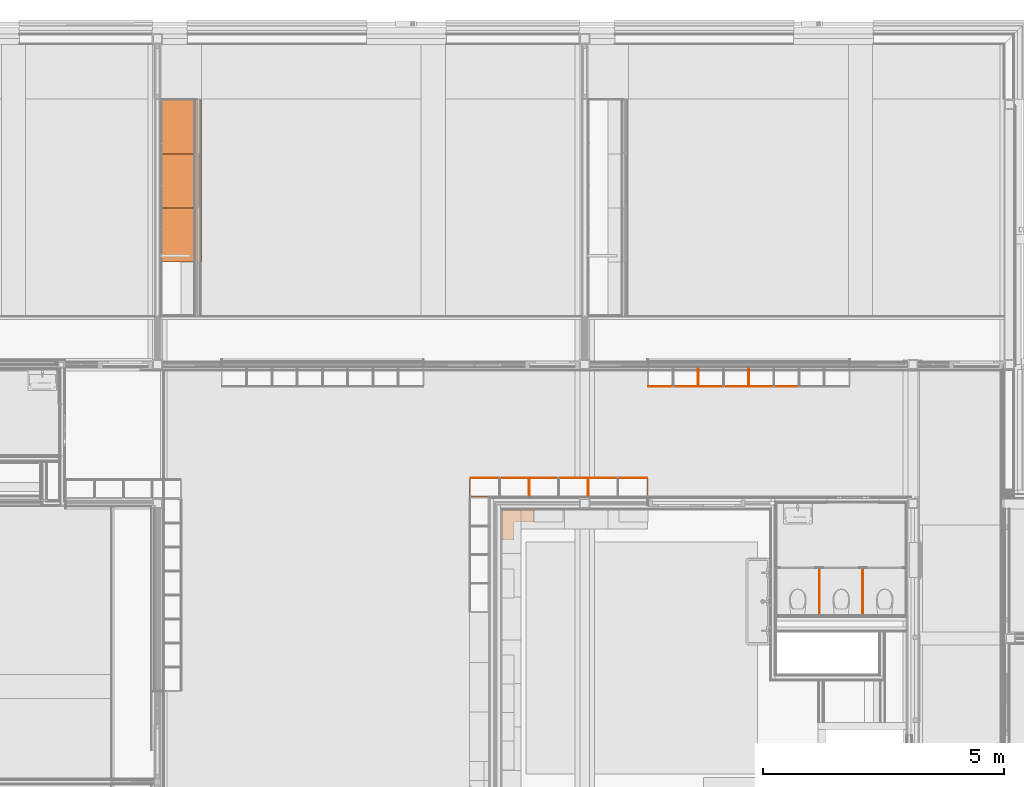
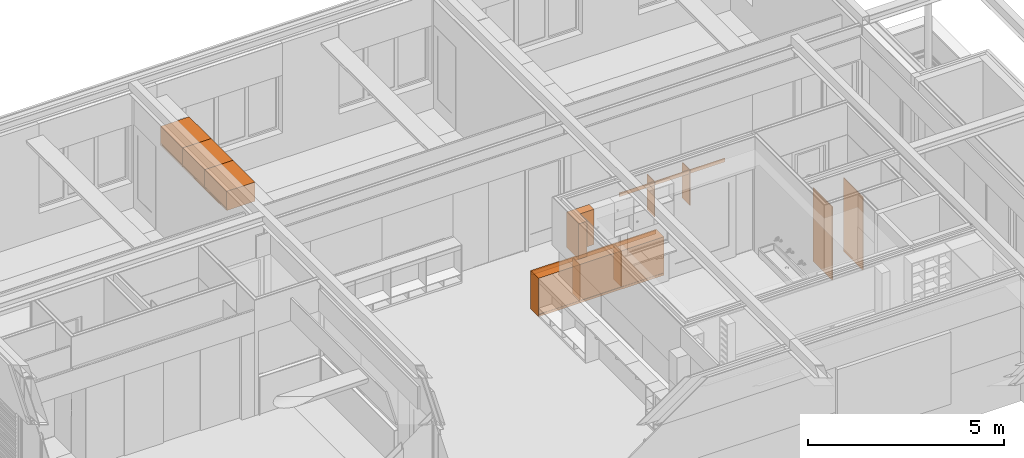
# One storey, part 134 of 137: 17 proxies.
"""IFC2X3 building model written with IfcOpenShell, lengths in millimetres."""

from ifc_helpers import new_model, entity, si_unit, converted_unit, derived_unit, money_unit, direction, frame, origin_with_axes, place, context, subcontext, project, spatial, faceted_brep, material, type_object, element, save


model = new_model("IFC2X3")

# Units and contexts
model_context = context("Model", 3, precision=0.01, world=origin_with_axes(), true_north=direction((0.0, 1.0)))
body_context = subcontext(model_context, "Body", "Model", "MODEL_VIEW")
ifc_project = project(units=[si_unit("LENGTHUNIT", "METRE", prefix="MILLI"), si_unit("AREAUNIT", "SQUARE_METRE"), si_unit("VOLUMEUNIT", "CUBIC_METRE"), converted_unit("PLANEANGLEUNIT", "DEGREE", entity("IfcPlaneAngleMeasure", 0.0174532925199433), si_unit("PLANEANGLEUNIT", "RADIAN"), dimensions=[0, 0, 0, 0, 0, 0, 0]), money_unit("EUR"), converted_unit("TIMEUNIT", "Year", entity("IfcTimeMeasure", 31556926.0), si_unit("TIMEUNIT", "SECOND"), dimensions=[0, 0, 1, 0, 0, 0, 0]), si_unit("MASSUNIT", "GRAM", prefix="KILO"), si_unit("THERMODYNAMICTEMPERATUREUNIT", "DEGREE_CELSIUS"), si_unit("LUMINOUSINTENSITYUNIT", "LUMEN"), si_unit("ENERGYUNIT", "JOULE", prefix="MEGA"), derived_unit("THERMALCONDUCTANCEUNIT", [(si_unit("POWERUNIT", "WATT"), 1), (si_unit("LENGTHUNIT", "METRE"), -1), (si_unit("THERMODYNAMICTEMPERATUREUNIT", "KELVIN"), -1)]), derived_unit("SPECIFICHEATCAPACITYUNIT", [(si_unit("ENERGYUNIT", "JOULE"), 1), (si_unit("MASSUNIT", "GRAM", prefix="KILO"), -1), (si_unit("THERMODYNAMICTEMPERATUREUNIT", "KELVIN"), -1)]), derived_unit("MASSDENSITYUNIT", [(si_unit("MASSUNIT", "GRAM", prefix="KILO"), 1), (si_unit("VOLUMEUNIT", "CUBIC_METRE"), -1)])], contexts=[model_context])

# Site, building, storey
site_placement = place(None, origin_with_axes())
site = spatial("IfcSite", under=ifc_project, at=site_placement, Name="Site", CompositionType="ELEMENT")
building_placement = place(site_placement, origin_with_axes())
building = spatial("IfcBuilding", under=site, at=building_placement, Name="Naam gebouw", CompositionType="ELEMENT")
storey_placement = place(building_placement, frame((0.0, 0.0, 3960.0), z_axis=(0.0, 0.0, 1.0), x_axis=(1.0, 0.0, 0.0)))
storey = spatial("IfcBuildingStorey", under=building, at=storey_placement, Name="1e verdieping", CompositionType="ELEMENT", Elevation=3960.0)

# Proxies
ifc_material_1 = material(Name="ALG - ALGEMEEN")
building_element_proxy_type_1 = type_object("IfcBuildingElementProxyType", Name="ALG - ALGEMEEN 20", PredefinedType="NOTDEFINED")
proxy_1_placement = place(storey_placement, frame((23464.99903999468, 18114.99981121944, 99.99999999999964), z_axis=(0.0, 0.0, 1.0), x_axis=(0.0, -1.0, 0.0)))
element("IfcBuildingElementProxy", 1, at=proxy_1_placement, inside=storey, type_object=building_element_proxy_type_1, material=ifc_material_1, Name="_Wand-x", context=body_context, shape_type="Brep", body=[
    faceted_brep([(1000.002029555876, -9.999999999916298, 2290.0), (1000.002029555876, 10.00000000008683, 2290.0), (10.00000000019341, 10.00000000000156, 2290.0), (10.0000000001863, -10.00000000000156, 2290.0), (1000.002029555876, -9.999999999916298, 0.0), (1000.002029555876, 10.00000000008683, 0.0), (10.00000000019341, 10.00000000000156, 0.0), (10.0000000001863, -10.00000000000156, 0.0)], [[[0, 1, 2, 3]], [[1, 0, 4, 5]], [[1, 5, 6, 2]], [[7, 3, 2, 6]], [[4, 0, 3, 7]], [[5, 4, 7, 6]]]),
])
proxy_2_placement = place(storey_placement, frame((22564.99903999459, 18114.99981121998, 99.99999999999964), z_axis=(0.0, 0.0, 1.0), x_axis=(0.0, -1.0, 0.0)))
element("IfcBuildingElementProxy", 2, at=proxy_2_placement, inside=storey, type_object=building_element_proxy_type_1, material=ifc_material_1, Name="_Wand-x", context=body_context, shape_type="Brep", body=[
    faceted_brep([(1000.00202955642, -9.999999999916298, 2290.0), (1000.002029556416, 10.00000000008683, 2290.0), (10.0000000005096, 10.00000000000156, 2290.0), (10.00000000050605, -10.00000000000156, 2290.0), (1000.00202955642, -9.999999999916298, 0.0), (1000.002029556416, 10.00000000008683, 0.0), (10.0000000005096, 10.00000000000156, 0.0), (10.00000000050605, -10.00000000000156, 0.0)], [[[0, 1, 2, 3]], [[1, 0, 4, 5]], [[1, 5, 6, 2]], [[7, 3, 2, 6]], [[4, 0, 3, 7]], [[5, 4, 7, 6]]]),
])
ifc_material_2 = material(Name="Hout AFW")
building_element_proxy_type_2 = type_object("IfcBuildingElementProxyType", Name="Hout AFW 18", PredefinedType="NOTDEFINED")
proxy_3_placement = place(storey_placement, frame((21109.9867600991, 21862.47621406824, 1062.0), z_axis=(0.0, 0.0, 1.0), x_axis=(1.0, 0.0, 0.0)))
element("IfcBuildingElementProxy", 3, at=proxy_3_placement, inside=storey, type_object=building_element_proxy_type_2, material=ifc_material_2, Name="i HOUT_Wand-x", context=body_context, shape_type="Brep", body=[
    faceted_brep([(0.0, 18.00000000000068, 0.0), (1024.991813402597, 18.00000000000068, 0.0), (1024.991813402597, 0.0, 0.0), (0.0, 0.0, 0.0), (0.0, 18.00000000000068, 117.9999999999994), (1024.991813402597, 18.00000000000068, 117.9999999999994), (1024.991813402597, 0.0, 117.9999999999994), (0.0, 0.0, 117.9999999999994)], [[[0, 1, 2, 3]], [[4, 5, 1, 0]], [[2, 1, 5, 6]], [[3, 2, 6, 7]], [[4, 0, 3, 7]], [[7, 6, 5, 4]]]),
])
proxy_4_placement = place(storey_placement, frame((18994.99945671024, 19984.99981121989, 1062.0), z_axis=(0.0, 0.0, 1.0), x_axis=(-1.0, 0.0, 0.0)))
element("IfcBuildingElementProxy", 4, at=proxy_4_placement, inside=storey, type_object=building_element_proxy_type_2, material=ifc_material_2, Name="i HOUT_Wand-x", context=body_context, shape_type="Brep", body=[
    faceted_brep([(0.0, 18.00000000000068, 0.0), (1209.999999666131, 18.00000000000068, 0.0), (1209.999999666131, 0.0, 0.0), (0.0, 0.0, 0.0), (0.0, 18.00000000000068, 117.9999999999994), (1209.999999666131, 18.00000000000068, 117.9999999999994), (1209.999999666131, 0.0, 117.9999999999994), (0.0, 0.0, 117.9999999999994)], [[[0, 1, 2, 3]], [[4, 5, 1, 0]], [[2, 1, 5, 6]], [[3, 2, 6, 7]], [[4, 0, 3, 7]], [[7, 6, 5, 4]]]),
])
proxy_5_placement = place(storey_placement, frame((20064.9949466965, 21862.47621406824, 1062.0), z_axis=(0.0, 0.0, 1.0), x_axis=(1.0, 0.0, 0.0)))
element("IfcBuildingElementProxy", 5, at=proxy_5_placement, inside=storey, type_object=building_element_proxy_type_2, material=ifc_material_2, Name="i HOUT_Wand-x", context=body_context, shape_type="Brep", body=[
    faceted_brep([(0.0, 18.00000000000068, 0.0), (1024.991813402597, 18.00000000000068, 0.0), (1024.991813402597, 0.0, 0.0), (0.0, 0.0, 0.0), (0.0, 18.00000000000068, 117.9999999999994), (1024.991813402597, 18.00000000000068, 117.9999999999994), (1024.991813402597, 0.0, 117.9999999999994), (0.0, 0.0, 117.9999999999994)], [[[0, 1, 2, 3]], [[4, 5, 1, 0]], [[2, 1, 5, 6]], [[3, 2, 6, 7]], [[4, 0, 3, 7]], [[7, 6, 5, 4]]]),
])
proxy_6_placement = place(storey_placement, frame((16544.99945919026, 19984.99981121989, 1062.0), z_axis=(0.0, 0.0, 1.0), x_axis=(-1.0, 0.0, 0.0)))
element("IfcBuildingElementProxy", 6, at=proxy_6_placement, inside=storey, type_object=building_element_proxy_type_2, material=ifc_material_2, Name="i HOUT_Wand-x", context=body_context, shape_type="Brep", body=[
    faceted_brep([(0.0, 18.00000000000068, 0.0), (1210.000002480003, 18.00000000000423, 0.0), (1210.000002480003, 0.0, 0.0), (0.0, 0.0, 0.0), (0.0, 18.00000000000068, 117.9999999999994), (1210.000002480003, 18.00000000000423, 117.9999999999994), (1210.000002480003, 0.0, 117.9999999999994), (0.0, 0.0, 117.9999999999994)], [[[0, 1, 2, 3]], [[4, 5, 1, 0]], [[2, 1, 5, 6]], [[3, 2, 6, 7]], [[4, 0, 3, 7]], [[7, 6, 5, 4]]]),
])
proxy_7_placement = place(storey_placement, frame((17764.99945704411, 19984.99981121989, 1062.0), z_axis=(0.0, 0.0, 1.0), x_axis=(-1.0, 0.0, 0.0)))
element("IfcBuildingElementProxy", 7, at=proxy_7_placement, inside=storey, type_object=building_element_proxy_type_2, material=ifc_material_2, Name="i HOUT_Wand-x", context=body_context, shape_type="Brep", body=[
    faceted_brep([(0.0, 18.00000000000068, 0.0), (1199.999997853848, 18.00000000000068, 0.0), (1199.999997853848, 0.0, 0.0), (0.0, 0.0, 0.0), (0.0, 18.00000000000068, 117.9999999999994), (1199.999997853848, 18.00000000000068, 117.9999999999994), (1199.999997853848, 0.0, 117.9999999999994), (0.0, 0.0, 117.9999999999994)], [[[0, 1, 2, 3]], [[4, 5, 1, 0]], [[2, 1, 5, 6]], [[3, 2, 6, 7]], [[4, 0, 3, 7]], [[7, 6, 5, 4]]]),
])
proxy_8_placement = place(storey_placement, frame((19019.9990399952, 21862.47621406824, 1062.0), z_axis=(0.0, 0.0, 1.0), x_axis=(1.0, 0.0, 0.0)))
element("IfcBuildingElementProxy", 8, at=proxy_8_placement, inside=storey, type_object=building_element_proxy_type_2, material=ifc_material_2, Name="i HOUT_Wand-x", context=body_context, shape_type="Brep", body=[
    faceted_brep([(0.0, 18.00000000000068, 0.0), (1024.995906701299, 18.00000000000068, 0.0), (1024.995906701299, 0.0, 0.0), (0.0, 0.0, 0.0), (0.0, 18.00000000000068, 117.9999999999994), (1024.995906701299, 18.00000000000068, 117.9999999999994), (1024.995906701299, 0.0, 117.9999999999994), (0.0, 0.0, 117.9999999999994)], [[[0, 1, 2, 3]], [[4, 5, 1, 0]], [[2, 1, 5, 6]], [[3, 2, 6, 7]], [[4, 0, 3, 7]], [[7, 6, 5, 4]]]),
])
building_element_proxy_type_3 = type_object("IfcBuildingElementProxyType", Name="Onderkast recht 26", PredefinedType="NOTDEFINED")
proxy_9_placement = place(storey_placement, frame((19014.99945671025, 19584.9998112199, 0.0), z_axis=(0.0, 0.0, 1.0), x_axis=(-1.0, 0.0, 0.0)))
element("IfcBuildingElementProxy", 9, at=proxy_9_placement, inside=storey, type_object=building_element_proxy_type_3, Name="_Leeg", context=body_context, shape_type="Brep", body=[
    faceted_brep([(20.0, -399.999999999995, 50.0), (3679.999999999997, -399.999999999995, 50.0), (3679.999999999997, -399.999999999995, 70.0), (20.0, -399.999999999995, 70.0), (20.0, 0.0, 50.0), (3679.999999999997, 0.0, 50.0), (3679.999999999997, 0.0, 70.0), (20.0, 0.0, 70.0)], [[[0, 1, 2, 3]], [[0, 4, 5, 1]], [[1, 5, 6, 2]], [[3, 2, 6, 7]], [[4, 0, 3, 7]], [[5, 4, 7, 6]]]),
    faceted_brep([(20.0, -399.999999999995, 1180.0), (3679.999999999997, -399.999999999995, 1180.0), (3679.999999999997, -399.999999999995, 1200.0), (20.0, -399.999999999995, 1200.0), (20.0, 0.0, 1180.0), (3679.999999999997, 0.0, 1180.0), (3679.999999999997, 0.0, 1200.0), (20.0, 0.0, 1200.0)], [[[0, 1, 2, 3]], [[0, 4, 5, 1]], [[1, 5, 6, 2]], [[3, 2, 6, 7]], [[4, 0, 3, 7]], [[5, 4, 7, 6]]]),
    faceted_brep([(0.0, 0.0, 50.0), (0.0, -399.999999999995, 50.0), (0.0, -399.999999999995, 1200.0), (0.0, 0.0, 1200.0), (20.0, 0.0, 50.0), (20.0, -399.999999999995, 50.0), (20.0, -399.999999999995, 1200.0), (20.0, 0.0, 1200.0)], [[[0, 1, 2, 3]], [[0, 4, 5, 1]], [[1, 5, 6, 2]], [[3, 2, 6, 7]], [[4, 0, 3, 7]], [[5, 4, 7, 6]]]),
    faceted_brep([(3699.999999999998, -399.999999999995, 50.0), (3699.999999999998, 0.0, 50.0), (3699.999999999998, 0.0, 1200.0), (3699.999999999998, -399.999999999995, 1200.0), (3679.999999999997, -399.999999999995, 50.0), (3679.999999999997, 0.0, 50.0), (3679.999999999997, 0.0, 1200.0), (3679.999999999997, -399.999999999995, 1200.0)], [[[0, 1, 2, 3]], [[0, 4, 5, 1]], [[1, 5, 6, 2]], [[3, 2, 6, 7]], [[4, 0, 3, 7]], [[5, 4, 7, 6]]]),
    faceted_brep([(3679.999999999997, -10.0, 70.0), (20.00000000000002, -10.0, 70.0), (20.00000000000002, -10.0, 1180.0), (3679.999999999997, -10.0, 1180.0), (3679.999999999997, -20.0, 70.0), (20.00000000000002, -20.0, 70.0), (20.00000000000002, -20.0, 1180.0), (3679.999999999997, -20.0, 1180.0)], [[[0, 1, 2, 3]], [[0, 4, 5, 1]], [[1, 5, 6, 2]], [[3, 2, 6, 7]], [[4, 0, 3, 7]], [[5, 4, 7, 6]]]),
    faceted_brep([(0.0, -399.999999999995, 0.0), (3699.999999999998, -399.999999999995, 0.0), (3699.999999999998, -399.999999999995, 50.0), (0.0, -399.999999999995, 50.0), (0.0, 0.0, 0.0), (3699.999999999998, 0.0, 0.0), (3699.999999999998, 0.0, 50.0), (0.0, 0.0, 50.0)], [[[0, 1, 2, 3]], [[0, 4, 5, 1]], [[1, 5, 6, 2]], [[3, 2, 6, 7]], [[4, 0, 3, 7]], [[5, 4, 7, 6]]]),
])
proxy_10_placement = place(storey_placement, frame((8912.500000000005, 26687.99970566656, 2600.0), z_axis=(0.0, 0.0, 1.0), x_axis=(0.0, 1.0, 0.0)))
element("IfcBuildingElementProxy", 10, at=proxy_10_placement, inside=storey, type_object=building_element_proxy_type_3, Name="_Leeg", context=body_context, shape_type="Brep", body=[
    faceted_brep([(-1102.000141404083, -1.999999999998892, 17.99999999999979), (-18.00000000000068, -1.999999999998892, 17.99999999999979), (-18.00000000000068, 0.0, 17.99999999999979), (-1102.000141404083, 0.0, 17.99999999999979), (-18.00000000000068, -1.999999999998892, 0.0), (-1102.000141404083, -1.999999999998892, 0.0), (-18.00000000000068, 0.0, 0.0), (-1102.000141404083, 0.0, 0.0)], [[[0, 1, 2, 3]], [[4, 1, 0, 5]], [[1, 4, 6, 2]], [[6, 7, 3, 2]], [[5, 0, 3, 7]], [[4, 5, 7, 6]]]),
    faceted_brep([(-1102.000141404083, -18.00000000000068, 69.99999999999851), (-18.00000000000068, -18.00000000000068, 69.99999999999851), (-18.00000000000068, -18.00000000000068, 581.9999999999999), (-1102.000141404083, -18.00000000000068, 581.9999999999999), (-18.00000000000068, -9.000000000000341, 69.99999999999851), (-1102.000141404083, -9.000000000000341, 69.99999999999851), (-18.00000000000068, -9.000000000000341, 581.9999999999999), (-1102.000141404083, -9.000000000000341, 581.9999999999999)], [[[0, 1, 2, 3]], [[4, 1, 0, 5]], [[1, 4, 6, 2]], [[6, 7, 3, 2]], [[5, 0, 3, 7]], [[4, 5, 7, 6]]]),
    faceted_brep([(-1102.000141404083, -827.0, 581.9999999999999), (-18.00000000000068, -827.0, 581.9999999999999), (-18.00000000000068, -827.0, 599.9999999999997), (-1102.000141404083, -827.0, 599.9999999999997), (-18.00000000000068, 0.0, 581.9999999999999), (-1102.000141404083, 0.0, 581.9999999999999), (-18.00000000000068, 0.0, 599.9999999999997), (-1102.000141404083, 0.0, 599.9999999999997)], [[[0, 1, 2, 3]], [[4, 1, 0, 5]], [[1, 4, 6, 2]], [[3, 2, 6, 7]], [[5, 0, 3, 7]], [[4, 5, 7, 6]]]),
    faceted_brep([(0.0, -1.999999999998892, 69.99999999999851), (0.0, -1.999999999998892, 0.0), (0.0, 0.0, 0.0), (0.0, 0.0, 599.9999999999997), (0.0, -827.0, 599.9999999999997), (0.0, -827.0, 0.0), (0.0, -21.99999999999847, 0.0), (0.0, -21.99999999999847, 69.99999999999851), (-18.00000000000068, -1.999999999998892, 69.99999999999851), (-18.00000000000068, -1.999999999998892, 0.0), (-18.00000000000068, 0.0, 0.0), (-18.00000000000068, 0.0, 599.9999999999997), (-18.00000000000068, -827.0, 599.9999999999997), (-18.00000000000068, -827.0, 0.0), (-18.00000000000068, -21.99999999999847, 0.0), (-18.00000000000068, -21.99999999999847, 69.99999999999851)], [[[0, 1, 2, 3, 4, 5, 6, 7]], [[1, 0, 8, 9]], [[1, 9, 10, 2]], [[2, 10, 11, 3]], [[4, 3, 11, 12]], [[13, 5, 4, 12]], [[14, 6, 5, 13]], [[7, 6, 14, 15]], [[0, 7, 15, 8]], [[15, 14, 13, 12, 11, 10, 9, 8]]]),
    faceted_brep([(-1102.000141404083, -1.999999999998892, 69.99999999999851), (-1102.000141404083, -1.999999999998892, 0.0), (-1102.000141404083, 0.0, 0.0), (-1102.000141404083, 0.0, 599.9999999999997), (-1102.000141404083, -827.0, 599.9999999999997), (-1102.000141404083, -827.0, 0.0), (-1102.000141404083, -21.99999999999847, 0.0), (-1102.000141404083, -21.99999999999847, 69.99999999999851), (-1120.000141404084, -1.999999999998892, 69.99999999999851), (-1120.000141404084, -1.999999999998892, 0.0), (-1120.000141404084, 0.0, 0.0), (-1120.000141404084, 0.0, 599.9999999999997), (-1120.000141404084, -827.0, 599.9999999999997), (-1120.000141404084, -827.0, 0.0), (-1120.000141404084, -21.99999999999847, 0.0), (-1120.000141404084, -21.99999999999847, 69.99999999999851)], [[[0, 1, 2, 3, 4, 5, 6, 7]], [[1, 0, 8, 9]], [[1, 9, 10, 2]], [[2, 10, 11, 3]], [[11, 12, 4, 3]], [[13, 5, 4, 12]], [[14, 6, 5, 13]], [[7, 6, 14, 15]], [[0, 7, 15, 8]], [[15, 14, 13, 12, 11, 10, 9, 8]]]),
    faceted_brep([(-18.00000000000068, -21.99999999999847, 0.0), (-18.00000000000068, -21.99999999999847, 17.99999999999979), (-18.00000000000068, -827.0, 17.99999999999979), (-18.00000000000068, -827.0, 0.0), (-1102.000141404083, -21.99999999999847, 17.99999999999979), (-1102.000141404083, -21.99999999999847, 0.0), (-1102.000141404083, -827.0, 17.99999999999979), (-1102.000141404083, -827.0, 0.0)], [[[0, 1, 2, 3]], [[4, 1, 0, 5]], [[1, 4, 6, 2]], [[7, 3, 2, 6]], [[5, 0, 3, 7]], [[4, 5, 7, 6]]]),
    faceted_brep([(-1.000000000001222, -827.0, 1.000000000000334), (-1.000000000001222, -845.0000000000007, 1.000000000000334), (-1119.000141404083, -845.0000000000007, 1.000000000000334), (-1119.000141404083, -827.0, 1.000000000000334), (-1.000000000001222, -827.0, 599.0000000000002), (-1.000000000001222, -845.0000000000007, 599.0000000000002), (-1119.000141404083, -845.0000000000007, 599.0000000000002), (-1119.000141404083, -827.0, 599.0000000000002)], [[[0, 1, 2, 3]], [[4, 5, 1, 0]], [[1, 5, 6, 2]], [[3, 2, 6, 7]], [[0, 3, 7, 4]], [[7, 6, 5, 4]]]),
])
proxy_11_placement = place(storey_placement, frame((8912.500000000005, 25567.99956426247, 2600.0), z_axis=(0.0, 0.0, 1.0), x_axis=(0.0, 1.0, 0.0)))
element("IfcBuildingElementProxy", 11, at=proxy_11_placement, inside=storey, type_object=building_element_proxy_type_3, Name="_Leeg", context=body_context, shape_type="Brep", body=[
    faceted_brep([(-1102.000141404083, -1.999999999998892, 17.99999999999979), (-18.00000000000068, -1.999999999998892, 17.99999999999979), (-18.00000000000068, 0.0, 17.99999999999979), (-1102.000141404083, 0.0, 17.99999999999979), (-18.00000000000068, -1.999999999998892, 0.0), (-1102.000141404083, -1.999999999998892, 0.0), (-18.00000000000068, 0.0, 0.0), (-1102.000141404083, 0.0, 0.0)], [[[0, 1, 2, 3]], [[4, 1, 0, 5]], [[1, 4, 6, 2]], [[6, 7, 3, 2]], [[5, 0, 3, 7]], [[4, 5, 7, 6]]]),
    faceted_brep([(-1102.000141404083, -18.00000000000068, 69.99999999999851), (-18.00000000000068, -18.00000000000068, 69.99999999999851), (-18.00000000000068, -18.00000000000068, 581.9999999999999), (-1102.000141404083, -18.00000000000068, 581.9999999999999), (-18.00000000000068, -9.000000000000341, 69.99999999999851), (-1102.000141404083, -9.000000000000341, 69.99999999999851), (-18.00000000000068, -9.000000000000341, 581.9999999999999), (-1102.000141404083, -9.000000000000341, 581.9999999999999)], [[[0, 1, 2, 3]], [[4, 1, 0, 5]], [[1, 4, 6, 2]], [[6, 7, 3, 2]], [[5, 0, 3, 7]], [[4, 5, 7, 6]]]),
    faceted_brep([(-1102.000141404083, -827.0, 581.9999999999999), (-18.00000000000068, -827.0, 581.9999999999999), (-18.00000000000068, -827.0, 599.9999999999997), (-1102.000141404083, -827.0, 599.9999999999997), (-18.00000000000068, 0.0, 581.9999999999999), (-1102.000141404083, 0.0, 581.9999999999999), (-18.00000000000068, 0.0, 599.9999999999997), (-1102.000141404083, 0.0, 599.9999999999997)], [[[0, 1, 2, 3]], [[4, 1, 0, 5]], [[1, 4, 6, 2]], [[3, 2, 6, 7]], [[5, 0, 3, 7]], [[4, 5, 7, 6]]]),
    faceted_brep([(0.0, -1.999999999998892, 69.99999999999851), (0.0, -1.999999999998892, 0.0), (0.0, 0.0, 0.0), (0.0, 0.0, 599.9999999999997), (0.0, -827.0, 599.9999999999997), (0.0, -827.0, 0.0), (0.0, -21.99999999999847, 0.0), (0.0, -21.99999999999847, 69.99999999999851), (-18.00000000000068, -1.999999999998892, 69.99999999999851), (-18.00000000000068, -1.999999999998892, 0.0), (-18.00000000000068, 0.0, 0.0), (-18.00000000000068, 0.0, 599.9999999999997), (-18.00000000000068, -827.0, 599.9999999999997), (-18.00000000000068, -827.0, 0.0), (-18.00000000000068, -21.99999999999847, 0.0), (-18.00000000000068, -21.99999999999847, 69.99999999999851)], [[[0, 1, 2, 3, 4, 5, 6, 7]], [[1, 0, 8, 9]], [[1, 9, 10, 2]], [[2, 10, 11, 3]], [[4, 3, 11, 12]], [[13, 5, 4, 12]], [[14, 6, 5, 13]], [[7, 6, 14, 15]], [[0, 7, 15, 8]], [[15, 14, 13, 12, 11, 10, 9, 8]]]),
    faceted_brep([(-1102.000141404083, -1.999999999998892, 69.99999999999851), (-1102.000141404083, -1.999999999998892, 0.0), (-1102.000141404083, 0.0, 0.0), (-1102.000141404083, 0.0, 599.9999999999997), (-1102.000141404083, -827.0, 599.9999999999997), (-1102.000141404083, -827.0, 0.0), (-1102.000141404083, -21.99999999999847, 0.0), (-1102.000141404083, -21.99999999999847, 69.99999999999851), (-1120.000141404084, -1.999999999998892, 69.99999999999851), (-1120.000141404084, -1.999999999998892, 0.0), (-1120.000141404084, 0.0, 0.0), (-1120.000141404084, 0.0, 599.9999999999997), (-1120.000141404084, -827.0, 599.9999999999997), (-1120.000141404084, -827.0, 0.0), (-1120.000141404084, -21.99999999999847, 0.0), (-1120.000141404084, -21.99999999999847, 69.99999999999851)], [[[0, 1, 2, 3, 4, 5, 6, 7]], [[1, 0, 8, 9]], [[1, 9, 10, 2]], [[2, 10, 11, 3]], [[11, 12, 4, 3]], [[13, 5, 4, 12]], [[14, 6, 5, 13]], [[7, 6, 14, 15]], [[0, 7, 15, 8]], [[15, 14, 13, 12, 11, 10, 9, 8]]]),
    faceted_brep([(-18.00000000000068, -21.99999999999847, 0.0), (-18.00000000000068, -21.99999999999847, 17.99999999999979), (-18.00000000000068, -827.0, 17.99999999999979), (-18.00000000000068, -827.0, 0.0), (-1102.000141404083, -21.99999999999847, 17.99999999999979), (-1102.000141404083, -21.99999999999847, 0.0), (-1102.000141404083, -827.0, 17.99999999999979), (-1102.000141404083, -827.0, 0.0)], [[[0, 1, 2, 3]], [[4, 1, 0, 5]], [[1, 4, 6, 2]], [[7, 3, 2, 6]], [[5, 0, 3, 7]], [[4, 5, 7, 6]]]),
    faceted_brep([(-1.000000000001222, -827.0, 1.000000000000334), (-1.000000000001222, -845.0000000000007, 1.000000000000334), (-1119.000141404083, -845.0000000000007, 1.000000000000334), (-1119.000141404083, -827.0, 1.000000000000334), (-1.000000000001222, -827.0, 599.0000000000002), (-1.000000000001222, -845.0000000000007, 599.0000000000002), (-1119.000141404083, -845.0000000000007, 599.0000000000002), (-1119.000141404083, -827.0, 599.0000000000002)], [[[0, 1, 2, 3]], [[4, 5, 1, 0]], [[1, 5, 6, 2]], [[3, 2, 6, 7]], [[0, 3, 7, 4]], [[7, 6, 5, 4]]]),
])
proxy_12_placement = place(storey_placement, frame((8912.500000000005, 27807.99984707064, 2600.0), z_axis=(0.0, 0.0, 1.0), x_axis=(0.0, 1.0, 0.0)))
element("IfcBuildingElementProxy", 12, at=proxy_12_placement, inside=storey, type_object=building_element_proxy_type_3, Name="_Leeg", context=body_context, shape_type="Brep", body=[
    faceted_brep([(-1102.000141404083, -1.999999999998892, 17.99999999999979), (-18.00000000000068, -1.999999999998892, 17.99999999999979), (-18.00000000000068, 0.0, 17.99999999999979), (-1102.000141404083, 0.0, 17.99999999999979), (-18.00000000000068, -1.999999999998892, 0.0), (-1102.000141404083, -1.999999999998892, 0.0), (-18.00000000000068, 0.0, 0.0), (-1102.000141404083, 0.0, 0.0)], [[[0, 1, 2, 3]], [[4, 1, 0, 5]], [[1, 4, 6, 2]], [[6, 7, 3, 2]], [[5, 0, 3, 7]], [[4, 5, 7, 6]]]),
    faceted_brep([(-1102.000141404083, -18.00000000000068, 69.99999999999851), (-18.00000000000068, -18.00000000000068, 69.99999999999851), (-18.00000000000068, -18.00000000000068, 581.9999999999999), (-1102.000141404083, -18.00000000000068, 581.9999999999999), (-18.00000000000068, -9.000000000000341, 69.99999999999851), (-1102.000141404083, -9.000000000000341, 69.99999999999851), (-18.00000000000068, -9.000000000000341, 581.9999999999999), (-1102.000141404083, -9.000000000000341, 581.9999999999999)], [[[0, 1, 2, 3]], [[4, 1, 0, 5]], [[1, 4, 6, 2]], [[6, 7, 3, 2]], [[5, 0, 3, 7]], [[4, 5, 7, 6]]]),
    faceted_brep([(-1102.000141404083, -827.0, 581.9999999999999), (-18.00000000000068, -827.0, 581.9999999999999), (-18.00000000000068, -827.0, 599.9999999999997), (-1102.000141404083, -827.0, 599.9999999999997), (-18.00000000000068, 0.0, 581.9999999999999), (-1102.000141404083, 0.0, 581.9999999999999), (-18.00000000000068, 0.0, 599.9999999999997), (-1102.000141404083, 0.0, 599.9999999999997)], [[[0, 1, 2, 3]], [[4, 1, 0, 5]], [[1, 4, 6, 2]], [[3, 2, 6, 7]], [[5, 0, 3, 7]], [[4, 5, 7, 6]]]),
    faceted_brep([(0.0, -1.999999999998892, 69.99999999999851), (0.0, -1.999999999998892, 0.0), (0.0, 0.0, 0.0), (0.0, 0.0, 599.9999999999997), (0.0, -827.0, 599.9999999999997), (0.0, -827.0, 0.0), (0.0, -21.99999999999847, 0.0), (0.0, -21.99999999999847, 69.99999999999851), (-18.00000000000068, -1.999999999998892, 69.99999999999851), (-18.00000000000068, -1.999999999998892, 0.0), (-18.00000000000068, 0.0, 0.0), (-18.00000000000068, 0.0, 599.9999999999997), (-18.00000000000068, -827.0, 599.9999999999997), (-18.00000000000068, -827.0, 0.0), (-18.00000000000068, -21.99999999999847, 0.0), (-18.00000000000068, -21.99999999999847, 69.99999999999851)], [[[0, 1, 2, 3, 4, 5, 6, 7]], [[1, 0, 8, 9]], [[1, 9, 10, 2]], [[2, 10, 11, 3]], [[4, 3, 11, 12]], [[13, 5, 4, 12]], [[14, 6, 5, 13]], [[7, 6, 14, 15]], [[0, 7, 15, 8]], [[15, 14, 13, 12, 11, 10, 9, 8]]]),
    faceted_brep([(-1102.000141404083, -1.999999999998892, 69.99999999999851), (-1102.000141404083, -1.999999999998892, 0.0), (-1102.000141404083, 0.0, 0.0), (-1102.000141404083, 0.0, 599.9999999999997), (-1102.000141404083, -827.0, 599.9999999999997), (-1102.000141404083, -827.0, 0.0), (-1102.000141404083, -21.99999999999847, 0.0), (-1102.000141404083, -21.99999999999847, 69.99999999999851), (-1120.000141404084, -1.999999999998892, 69.99999999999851), (-1120.000141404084, -1.999999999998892, 0.0), (-1120.000141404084, 0.0, 0.0), (-1120.000141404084, 0.0, 599.9999999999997), (-1120.000141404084, -827.0, 599.9999999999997), (-1120.000141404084, -827.0, 0.0), (-1120.000141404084, -21.99999999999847, 0.0), (-1120.000141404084, -21.99999999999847, 69.99999999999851)], [[[0, 1, 2, 3, 4, 5, 6, 7]], [[1, 0, 8, 9]], [[1, 9, 10, 2]], [[2, 10, 11, 3]], [[11, 12, 4, 3]], [[13, 5, 4, 12]], [[14, 6, 5, 13]], [[7, 6, 14, 15]], [[0, 7, 15, 8]], [[15, 14, 13, 12, 11, 10, 9, 8]]]),
    faceted_brep([(-18.00000000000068, -21.99999999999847, 0.0), (-18.00000000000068, -21.99999999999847, 17.99999999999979), (-18.00000000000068, -827.0, 17.99999999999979), (-18.00000000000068, -827.0, 0.0), (-1102.000141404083, -21.99999999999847, 17.99999999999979), (-1102.000141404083, -21.99999999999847, 0.0), (-1102.000141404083, -827.0, 17.99999999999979), (-1102.000141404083, -827.0, 0.0)], [[[0, 1, 2, 3]], [[4, 1, 0, 5]], [[1, 4, 6, 2]], [[7, 3, 2, 6]], [[5, 0, 3, 7]], [[4, 5, 7, 6]]]),
    faceted_brep([(-1.000000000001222, -827.0, 1.000000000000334), (-1.000000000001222, -845.0000000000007, 1.000000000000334), (-1119.000141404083, -845.0000000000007, 1.000000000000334), (-1119.000141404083, -827.0, 1.000000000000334), (-1.000000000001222, -827.0, 599.0000000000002), (-1.000000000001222, -845.0000000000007, 599.0000000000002), (-1119.000141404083, -845.0000000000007, 599.0000000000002), (-1119.000141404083, -827.0, 599.0000000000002)], [[[0, 1, 2, 3]], [[4, 5, 1, 0]], [[1, 5, 6, 2]], [[3, 2, 6, 7]], [[0, 3, 7, 4]], [[7, 6, 5, 4]]]),
])
building_element_proxy_type_4 = type_object("IfcBuildingElementProxyType", Name="Hout AFW 20", PredefinedType="NOTDEFINED")
for number, where, z_axis, x_axis, name in (
    (13, (16554.99945919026, 19604.89239120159, 70.00000000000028), (0.0, 0.0, 1.0), (0.0, 1.0, 0.0), "i HOUT_Wand-x"),
    (14, (17774.99945704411, 19604.96475562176, 70.00000000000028), (0.0, 0.0, 1.0), (0.0, 1.0, 0.0), "i HOUT_Wand-x"),
):
    element("IfcBuildingElementProxy", number, at=place(storey_placement, frame(where, z_axis=z_axis, x_axis=x_axis)), inside=storey, type_object=building_element_proxy_type_4, material=ifc_material_2, Name=name, context=body_context, shape_type="Brep", body=[
        faceted_brep([(0.0, 10.00000000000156, 0.0), (380.006513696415, 10.00000000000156, 0.0), (380.006513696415, -10.00000000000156, 0.0), (0.0, -10.00000000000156, 0.0), (0.0, 10.00000000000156, 1110.0), (380.006513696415, 10.00000000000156, 1110.0), (380.006513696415, -10.00000000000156, 1110.0), (0.0, -10.00000000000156, 1110.0)], [[[0, 1, 2, 3]], [[4, 5, 1, 0]], [[2, 1, 5, 6]], [[3, 2, 6, 7]], [[4, 0, 3, 7]], [[7, 6, 5, 4]]]),
    ])
for number, where, z_axis, x_axis, name in (
    (15, (20044.9949466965, 22242.51096553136, 70.00000000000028), (0.0, 0.0, 1.0), (0.0, -1.0, 0.0), "i HOUT_Wand-x"),
    (16, (21089.9867600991, 22242.56744106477, 70.00000000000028), (0.0, 0.0, 1.0), (0.0, -1.0, 0.0), "i HOUT_Wand-x"),
):
    element("IfcBuildingElementProxy", number, at=place(storey_placement, frame(where, z_axis=z_axis, x_axis=x_axis)), inside=storey, type_object=building_element_proxy_type_4, material=ifc_material_2, Name=name, context=body_context, shape_type="Brep", body=[
        faceted_brep([(0.0, 19.99999999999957, 0.0), (380.006513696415, 19.99999999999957, 0.0), (380.006513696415, 0.0, 0.0), (0.0, 0.0, 0.0), (0.0, 19.99999999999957, 1110.0), (380.006513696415, 19.99999999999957, 1110.0), (380.006513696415, 0.0, 1110.0), (0.0, 0.0, 1110.0)], [[[0, 1, 2, 3]], [[4, 5, 1, 0]], [[2, 1, 5, 6]], [[3, 2, 6, 7]], [[4, 0, 3, 7]], [[7, 6, 5, 4]]]),
    ])
building_element_proxy_type_5 = type_object("IfcBuildingElementProxyType", Name="Onderkast hoek S 26", PredefinedType="NOTDEFINED")
proxy_13_placement = place(storey_placement, frame((15984.99945960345, 19314.9998112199, 2100.0), z_axis=(0.0, 0.0, 1.0), x_axis=(0.0, 1.0, 0.0)))
element("IfcBuildingElementProxy", 17, at=proxy_13_placement, inside=storey, type_object=building_element_proxy_type_5, Name="_Leeg", context=body_context, shape_type="Brep", body=[
    faceted_brep([(-18.0, -647.9999971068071, 541.0000000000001), (-18.0, -647.9999971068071, 559.0000000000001), (-232.0, -647.9999971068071, 559.0000000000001), (-232.0, -647.9999971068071, 541.0000000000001), (-18.0, -18.0, 541.0000000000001), (-18.0, -18.0, 559.0000000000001), (-602.9925322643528, -17.99999999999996, 559.0000000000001), (-602.9925322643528, -250.0000000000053, 559.0000000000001), (-356.0, -250.0000000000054, 559.0000000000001), (-356.0, -232.0000000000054, 559.0000000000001), (-232.0, -232.0000000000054, 559.0000000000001), (-232.0, -232.0000000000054, 541.0000000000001), (-356.0, -232.0000000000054, 541.0000000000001), (-356.0, -250.0000000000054, 541.0000000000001), (-602.9925322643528, -250.0000000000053, 541.0000000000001), (-602.9925322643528, -17.99999999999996, 541.0000000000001)], [[[0, 1, 2, 3]], [[4, 5, 1, 0]], [[1, 5, 6, 7, 8, 9, 10, 2]], [[3, 2, 10, 11]], [[0, 3, 11, 12, 13, 14, 15, 4]], [[15, 6, 5, 4]], [[14, 7, 6, 15]], [[13, 8, 7, 14]], [[12, 9, 8, 13]], [[11, 10, 9, 12]]]),
    faceted_brep([(0.0, -647.9999971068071, 0.0), (0.0, -647.9999971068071, 18.0), (-250.0, -647.9999971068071, 18.0), (-250.0, -647.9999971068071, 0.0), (0.0, 0.0, 0.0), (0.0, 0.0, 18.0), (-602.9925322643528, 0.0, 18.0), (-602.9925322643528, -250.0000000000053, 18.0), (-250.0, -250.0000000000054, 18.0), (-250.0, -250.0000000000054, 0.0), (-602.9925322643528, -250.0000000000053, 0.0), (-602.9925322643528, 0.0, 0.0)], [[[0, 1, 2, 3]], [[4, 5, 1, 0]], [[1, 5, 6, 7, 8, 2]], [[3, 2, 8, 9]], [[0, 3, 9, 10, 11, 4]], [[11, 6, 5, 4]], [[10, 7, 6, 11]], [[9, 8, 7, 10]]]),
    faceted_brep([(0.0, -647.9999971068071, 1082.0), (0.0, -647.9999971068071, 1100.0), (-250.0, -647.9999971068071, 1100.0), (-250.0, -647.9999971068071, 1082.0), (0.0, 0.0, 1082.0), (0.0, 0.0, 1100.0), (-602.9925322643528, 0.0, 1100.0), (-602.9925322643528, -250.0000000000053, 1100.0), (-250.0, -250.0000000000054, 1100.0), (-250.0, -250.0000000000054, 1082.0), (-602.9925322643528, -250.0000000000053, 1082.0), (-602.9925322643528, 0.0, 1082.0)], [[[0, 1, 2, 3]], [[4, 5, 1, 0]], [[1, 5, 6, 7, 8, 2]], [[3, 2, 8, 9]], [[0, 3, 9, 10, 11, 4]], [[11, 6, 5, 4]], [[10, 7, 6, 11]], [[9, 8, 7, 10]]]),
    faceted_brep([(0.0, -665.9999971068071, 0.0), (0.0, -665.9999971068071, 1100.0), (-250.0, -665.9999971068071, 1100.0), (-250.0, -665.9999971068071, 0.0), (0.0, -647.9999971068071, 0.0), (0.0, -647.9999971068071, 1100.0), (-250.0, -647.9999971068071, 1100.0), (-250.0, -647.9999971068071, 0.0)], [[[0, 1, 2, 3]], [[4, 5, 1, 0]], [[1, 5, 6, 2]], [[3, 2, 6, 7]], [[0, 3, 7, 4]], [[7, 6, 5, 4]]]),
    faceted_brep([(0.0, 0.0, 18.0), (0.0, 0.0, 1082.0), (0.0, -647.9999971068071, 1082.0), (0.0, -647.9999971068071, 18.0), (-18.0, -18.0, 18.0), (-18.0, -18.0, 1082.0), (-18.0, -647.9999971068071, 1082.0), (-18.0, -647.9999971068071, 18.0)], [[[0, 1, 2, 3]], [[4, 5, 1, 0]], [[1, 5, 6, 2]], [[3, 2, 6, 7]], [[0, 3, 7, 4]], [[7, 6, 5, 4]]]),
    faceted_brep([(-620.9925322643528, -250.0000000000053, 0.0), (-620.9925322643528, -250.0000000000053, 1100.0), (-620.9925322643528, 0.0, 1100.0), (-620.9925322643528, 0.0, 0.0), (-602.9925322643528, -250.0000000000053, 0.0), (-602.9925322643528, -250.0000000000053, 1100.0), (-602.9925322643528, 0.0, 1100.0), (-602.9925322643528, 0.0, 0.0)], [[[0, 1, 2, 3]], [[4, 5, 1, 0]], [[1, 5, 6, 2]], [[3, 2, 6, 7]], [[0, 3, 7, 4]], [[7, 6, 5, 4]]]),
    faceted_brep([(-602.9925322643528, 0.0, 18.0), (-602.9925322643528, 0.0, 1082.0), (0.0, 0.0, 1082.0), (0.0, 0.0, 18.0), (-602.9925322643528, -17.99999999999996, 18.0), (-602.9925322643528, -17.99999999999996, 1082.0), (-18.00000000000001, -18.0, 1082.0), (-18.00000000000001, -18.0, 18.0)], [[[0, 1, 2, 3]], [[4, 5, 1, 0]], [[1, 5, 6, 2]], [[3, 2, 6, 7]], [[0, 3, 7, 4]], [[7, 6, 5, 4]]]),
    faceted_brep([(-232.0, -647.9999971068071, 18.0), (-232.0, -647.9999971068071, 1082.0), (-250.0, -647.9999971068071, 1082.0), (-250.0, -647.9999971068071, 18.0), (-232.0, -232.0000000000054, 18.0), (-232.0, -232.0000000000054, 1082.0), (-356.0, -232.0000000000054, 1082.0), (-356.0, -250.0000000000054, 1082.0), (-250.0, -250.0000000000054, 1082.0), (-250.0, -250.0000000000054, 18.0), (-356.0, -250.0000000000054, 18.0), (-356.0, -232.0000000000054, 18.0)], [[[0, 1, 2, 3]], [[4, 5, 1, 0]], [[1, 5, 6, 7, 8, 2]], [[3, 2, 8, 9]], [[0, 3, 9, 10, 11, 4]], [[11, 6, 5, 4]], [[10, 7, 6, 11]], [[9, 8, 7, 10]]]),
])

save(model, "model.ifc")
